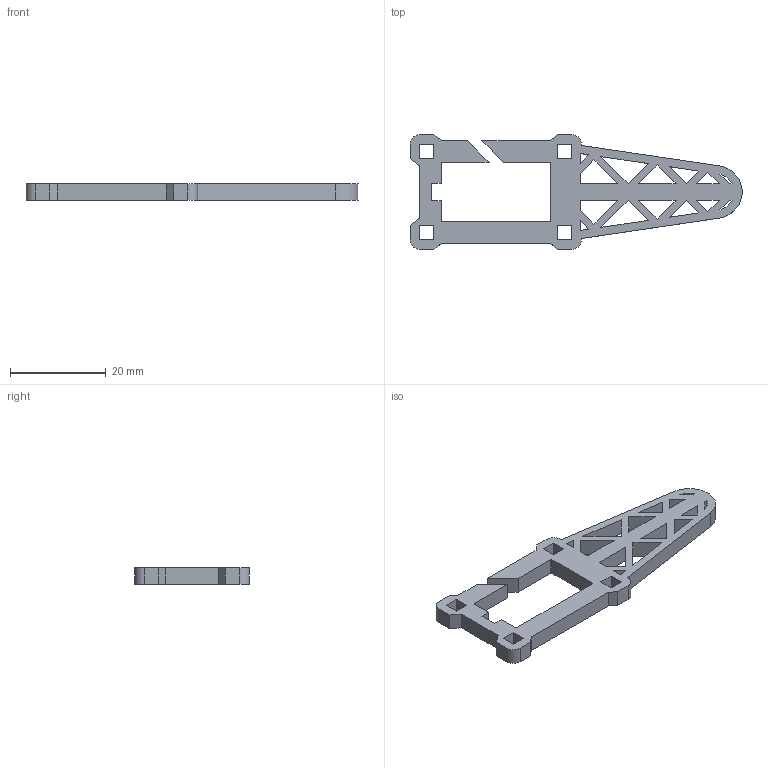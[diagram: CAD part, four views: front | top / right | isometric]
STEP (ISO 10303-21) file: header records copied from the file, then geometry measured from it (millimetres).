
FILE_DESCRIPTION(/* description */ ('STEP AP242 Edition 2','CAx-IF Rec.Pracs.---Representation and Presentation of Product Manufacturing Information (PMI)---4.0---2014-10-13','CAx-IF Rec.Pracs.---3D Tessellated Geometry---0.4---2014-09-14','2;1','CAx-IF Rec.Pracs.---User Defined Attributes---1.5---2016-08-15'),/* implementation_level */ '2;1');
FILE_NAME(/* name */ 'HIRO posing assembly - Part 1 (14)',/* time_stamp */ '2026-11-04T05:15:21Z',/* author */ (''),/* organization */ (''),/* preprocessor_version */ 'ST-DEVELOPER v20',/* originating_system */ 'ONSHAPE BY PTC INC, 1.223',/* authorisation */ ' ');
FILE_SCHEMA (('AP242_MANAGED_MODEL_BASED_3D_ENGINEERING_MIM_LF { 1 0 10303 442 3 1 4 }'));
Length unit declared in the file: metre
Products named in the file (1): Part 1
Bounding box: 69.28 x 23.9 x 3.5 mm (x, y, z)
Volume: 2591 mm3; surface area: 3270.2 mm2
Topology: 1 solids, 1 shells, 102 faces, 300 edges, 200 vertices
Faces by surface type: plane 91, cylinder 11
Entity records: 3440 total; most frequent: CARTESIAN_POINT 603, ORIENTED_EDGE 600, DIRECTION 528, EDGE_CURVE 300, LINE 278, VECTOR 278, VERTEX_POINT 200, EDGE_LOOP 138
